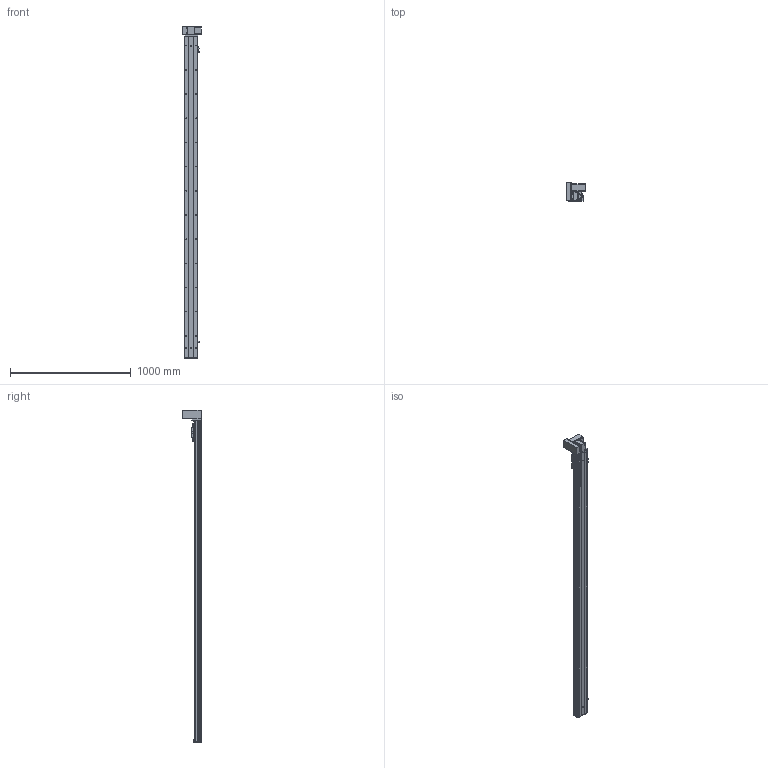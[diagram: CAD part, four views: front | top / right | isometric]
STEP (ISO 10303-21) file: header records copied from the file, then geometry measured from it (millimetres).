
FILE_DESCRIPTION (( 'STEP AP203' ), '1' );
FILE_NAME ('Y10CB-D90-S2400-UL-P400W.STEP', '2020-02-16T08:18:47', ( '微软用户' ), ( '微软中国' ), 'SwSTEP 2.0', 'SolidWorks 2017', '' );
FILE_SCHEMA (( 'CONFIG_CONTROL_DESIGN' ));
Length unit declared in the file: millimetre
Products named in the file (18): Y10B--々湍喘謫眊--666; Y10CB- 掛极耜裔啣-毀---; 0CB-雄赽釱---; Y10CB-D90-S2400-UL-P400W; Y10C---詩湍揤啣; 0Cb-俋欶---; 10CB9-掛极; Y10B-々湍喘謫眊楊擘啣--; 10CB-耜裔; 0B-萇儂楊擘啣; Y135C-陔俋离換覜結え-; san松下电机400不带刹车----; Y100-135俋离換覜ん--; 0B-源倛裔啣; Y10B-耜蚾蟀諉啣----; 0B-埴倛裔啣; 00B-俋欶BM--; 10CB-詩湍-
Assembly tree (21 placements, depth 2):
  Y10CB-D90-S2400-UL-P400W
    0CB-雄赽釱---
    0Cb-俋欶---
    Y10B-々湍喘謫眊楊擘啣--
    0B-萇儂楊擘啣
    san松下电机400不带刹车----
    0B-源倛裔啣
    0B-埴倛裔啣
    10CB-詩湍-
    Y10CB- 掛极耜裔啣-毀---  x2
    Y10C---詩湍揤啣  x2
    10CB9-掛极
    10CB-耜裔
    Y135C-陔俋离換覜結え-
    Y100-135俋离換覜ん--  x3
    Y10B-耜蚾蟀諉啣----
    00B-俋欶BM--
    Y10B--々湍喘謫眊--666
Bounding box: 157 x 155.5 x 2746 mm (x, y, z)
Volume: 5578838.2 mm3; surface area: 2644097.9 mm2
Topology: 21 solids, 21 shells, 1074 faces, 2923 edges, 1898 vertices
Faces by surface type: cylinder 559, plane 491, cone 24
Entity records: 34412 total; most frequent: CARTESIAN_POINT 6505, DIRECTION 5474, ORIENTED_EDGE 5316, EDGE_CURVE 2658, AXIS2_PLACEMENT_3D 1957, VERTEX_POINT 1724, VECTOR 1560, LINE 1560
